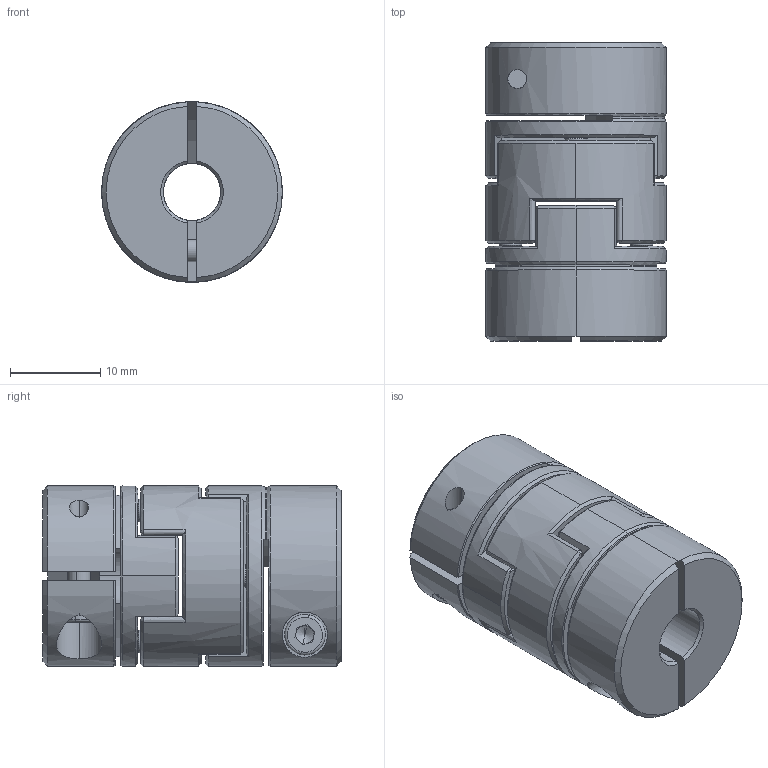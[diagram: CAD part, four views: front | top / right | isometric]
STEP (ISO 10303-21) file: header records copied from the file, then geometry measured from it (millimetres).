
FILE_DESCRIPTION (( 'STEP AP203' ), '1' );
FILE_NAME ('LZ-B-D20L33-6.35-6.35.STEP', '2021-10-29T05:38:23', ( '' ), ( '' ), 'SwSTEP 2.0', 'SolidWorks 2018', '' );
FILE_SCHEMA (( 'CONFIG_CONTROL_DESIGN' ));
Length unit declared in the file: millimetre
Products named in the file (1): LZ-B-D20L33-6.35-6.35
Bounding box: 20 x 33 x 20 mm (x, y, z)
Volume: 8472.9 mm3; surface area: 6112.2 mm2
Topology: 3 solids, 3 shells, 248 faces, 632 edges, 400 vertices
Faces by surface type: plane 112, cylinder 64, cone 42, bspline 26, torus 4
Entity records: 10263 total; most frequent: CARTESIAN_POINT 4455, ORIENTED_EDGE 1256, DIRECTION 1116, EDGE_CURVE 628, AXIS2_PLACEMENT_3D 431, VERTEX_POINT 400, EDGE_LOOP 276, LINE 254
